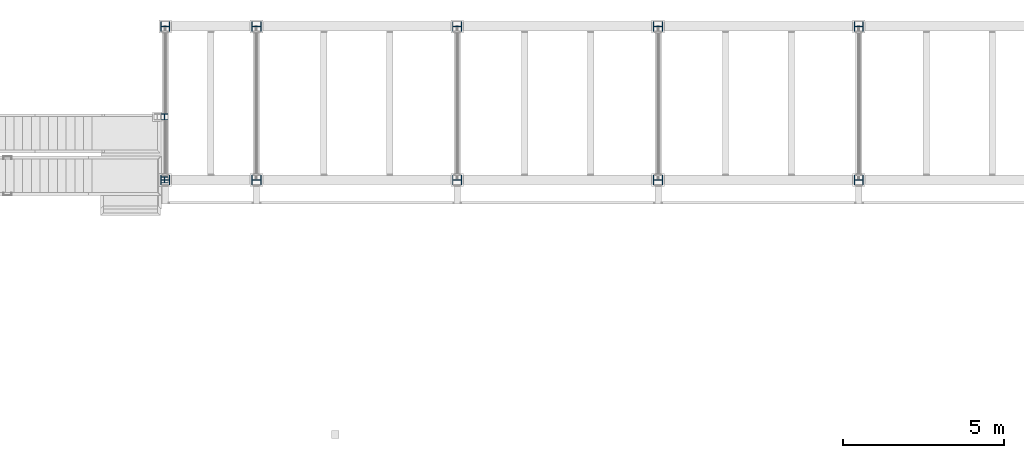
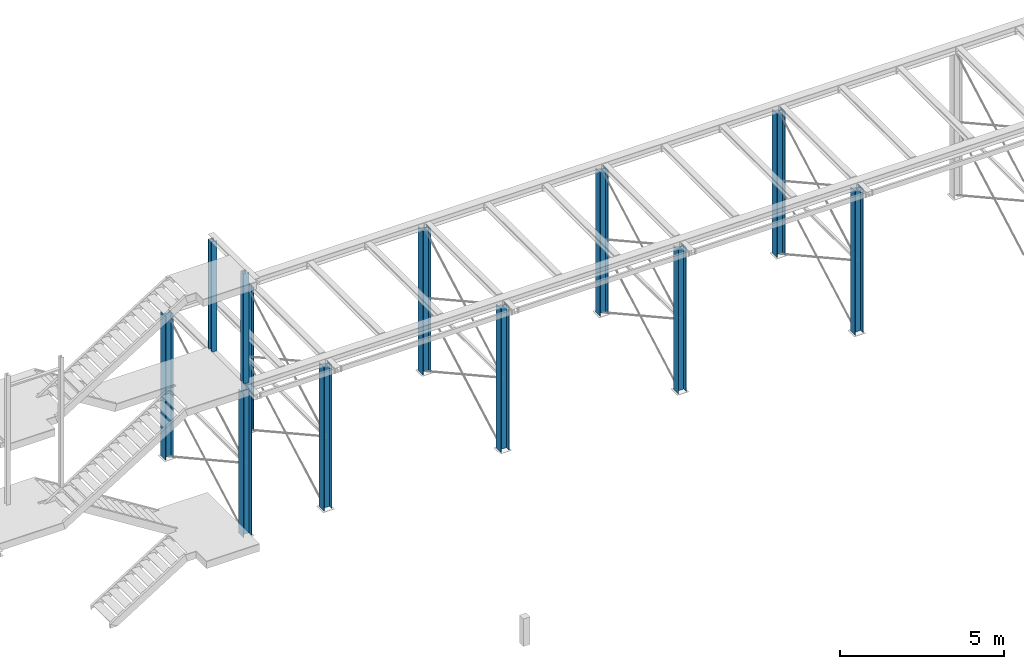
# One storey, part 3 of 24: 12 columns.
"""IFC2X3 building model written with IfcOpenShell, lengths in metres."""

from ifc_helpers import new_model, entity, si_unit, converted_unit, derived_unit, frame, origin, place, context, subcontext, project, spatial, polyline, outline, extrude, material, element, save


model = new_model("IFC2X3")

# Units and contexts
model_context = context("Model", 3, precision=1e-05, world=origin())
body_context = subcontext(model_context, "Body", "Model", "MODEL_VIEW")
ifc_project = project(units=[si_unit("LENGTHUNIT", "METRE"), si_unit("AREAUNIT", "SQUARE_METRE"), si_unit("VOLUMEUNIT", "CUBIC_METRE"), si_unit("MASSUNIT", "GRAM", prefix="KILO"), converted_unit("PLANEANGLEUNIT", "DEGREE", entity("IfcPlaneAngleMeasure", 0.0174532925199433), si_unit("PLANEANGLEUNIT", "RADIAN"), dimensions=[0, 0, 0, 0, 0, 0, 0]), derived_unit("THERMALTRANSMITTANCEUNIT", [(si_unit("POWERUNIT", "WATT"), 1), (si_unit("THERMODYNAMICTEMPERATUREUNIT", "KELVIN"), -1), (si_unit("LENGTHUNIT", "METRE"), -2)]), derived_unit("VOLUMETRICFLOWRATEUNIT", [(si_unit("LENGTHUNIT", "METRE"), 3), (converted_unit("TIMEUNIT", "hour", entity("IfcTimeMeasure", 3600.0), si_unit("TIMEUNIT", "SECOND"), dimensions=[0, 0, 1, 0, 0, 0, 0]), -1), (si_unit("LENGTHUNIT", "METRE"), -1)])], contexts=[model_context])

# Site, building, storey
site_placement = place(None, origin())
site = spatial("IfcSite", under=ifc_project, at=site_placement, Name="TWP_Speiseverteilzentrum SBW VZ II", CompositionType="ELEMENT")
building_placement = place(site_placement, origin())
building = spatial("IfcBuilding", under=site, at=building_placement, Name="Speiseverteilzentrum SBW VZ II", CompositionType="ELEMENT")
storey_placement = place(building_placement, frame((0.0, 0.0, 0.6957)))
storey = spatial("IfcBuildingStorey", under=building, at=storey_placement, Name="EG_Technik_FFB", CompositionType="ELEMENT", Elevation=0.6957)

# Columns
ifc_material_1 = material(Name="S235")
column_1_placement = place(storey_placement, frame((91.39175, 92.0999999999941, 0.665), z_axis=(0.0, 0.0, 1.0), x_axis=(1.22464679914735e-16, 1.0, 0.0)))
element("IfcColumn", 1, at=column_1_placement, inside=storey, material=ifc_material_1, Name="Rahmenstiel", context=body_context, shape_type="SweptSolid", body=[
    extrude(outline(polyline([(-0.15, 0.145), (-0.15, 0.131), (-0.00424999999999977, 0.131), (-0.00424999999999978, -0.131), (-0.15, -0.131), (-0.15, -0.145), (0.15, -0.145), (0.15, -0.131), (0.00425000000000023, -0.131), (0.00425000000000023, 0.131), (0.15, 0.131), (0.15, 0.145), (-0.15, 0.145)])), frame((0.15, 0.145, 0.0), z_axis=(0.0, 0.0, 1.0), x_axis=(1.0, 0.0, 0.0)), (0.0, 0.0, 1.0), 5.365),
])
ifc_material_2 = material(Name="S235")
column_2_placement = place(storey_placement, frame((91.39175, 87.3249999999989, 0.665), z_axis=(0.0, 0.0, 1.0), x_axis=(1.22464679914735e-16, 1.0, 0.0)))
element("IfcColumn", 2, at=column_2_placement, inside=storey, material=ifc_material_2, Name="Rahmenstiel", context=body_context, shape_type="SweptSolid", body=[
    extrude(outline(polyline([(-0.15, 0.145), (-0.15, 0.131), (-0.00424999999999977, 0.131), (-0.00424999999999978, -0.131), (-0.15, -0.131), (-0.15, -0.145), (0.15, -0.145), (0.15, -0.131), (0.00425000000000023, -0.131), (0.00425000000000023, 0.131), (0.15, 0.131), (0.15, 0.145), (-0.15, 0.145)])), frame((0.15, 0.145, 0.0), z_axis=(0.0, 0.0, 1.0), x_axis=(1.0, 0.0, 0.0)), (0.0, 0.0, 1.0), 5.365),
])
ifc_material_3 = material(Name="S235")
column_3_placement = place(storey_placement, frame((85.14825, 92.0999999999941, 0.665), z_axis=(0.0, 0.0, 1.0), x_axis=(1.22464679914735e-16, 1.0, 0.0)))
element("IfcColumn", 3, at=column_3_placement, inside=storey, material=ifc_material_3, Name="Rahmenstiel", context=body_context, shape_type="SweptSolid", body=[
    extrude(outline(polyline([(-0.15, 0.145), (-0.15, 0.131), (-0.00424999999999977, 0.131), (-0.00424999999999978, -0.131), (-0.15, -0.131), (-0.15, -0.145), (0.15, -0.145), (0.15, -0.131), (0.00425000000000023, -0.131), (0.00425000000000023, 0.131), (0.15, 0.131), (0.15, 0.145), (-0.15, 0.145)])), frame((0.15, 0.145, 0.0), z_axis=(0.0, 0.0, 1.0), x_axis=(1.0, 0.0, 0.0)), (0.0, 0.0, 1.0), 5.365),
])
ifc_material_4 = material(Name="S235")
column_4_placement = place(storey_placement, frame((85.14825, 87.3249999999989, 0.665), z_axis=(0.0, 0.0, 1.0), x_axis=(1.22464679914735e-16, 1.0, 0.0)))
element("IfcColumn", 4, at=column_4_placement, inside=storey, material=ifc_material_4, Name="Rahmenstiel", context=body_context, shape_type="SweptSolid", body=[
    extrude(outline(polyline([(-0.15, 0.145), (-0.15, 0.131), (-0.00424999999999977, 0.131), (-0.00424999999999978, -0.131), (-0.15, -0.131), (-0.15, -0.145), (0.15, -0.145), (0.15, -0.131), (0.00425000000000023, -0.131), (0.00425000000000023, 0.131), (0.15, 0.131), (0.15, 0.145), (-0.15, 0.145)])), frame((0.15, 0.145, 0.0), z_axis=(0.0, 0.0, 1.0), x_axis=(1.0, 0.0, 0.0)), (0.0, 0.0, 1.0), 5.365),
])
ifc_material_5 = material(Name="S235")
column_5_placement = place(storey_placement, frame((78.895, 92.0999999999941, 0.665), z_axis=(0.0, 0.0, 1.0), x_axis=(1.22464679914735e-16, 1.0, 0.0)))
element("IfcColumn", 5, at=column_5_placement, inside=storey, material=ifc_material_5, Name="Rahmenstiel", context=body_context, shape_type="SweptSolid", body=[
    extrude(outline(polyline([(-0.15, 0.145), (-0.15, 0.131), (-0.00424999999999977, 0.131), (-0.00424999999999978, -0.131), (-0.15, -0.131), (-0.15, -0.145), (0.15, -0.145), (0.15, -0.131), (0.00425000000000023, -0.131), (0.00425000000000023, 0.131), (0.15, 0.131), (0.15, 0.145), (-0.15, 0.145)])), frame((0.15, 0.145, 0.0), z_axis=(0.0, 0.0, 1.0), x_axis=(1.0, 0.0, 0.0)), (0.0, 0.0, 1.0), 5.365),
])
ifc_material_6 = material(Name="S235")
column_6_placement = place(storey_placement, frame((78.895, 87.3249999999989, 0.665), z_axis=(0.0, 0.0, 1.0), x_axis=(1.22464679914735e-16, 1.0, 0.0)))
element("IfcColumn", 6, at=column_6_placement, inside=storey, material=ifc_material_6, Name="Rahmenstiel", context=body_context, shape_type="SweptSolid", body=[
    extrude(outline(polyline([(-0.15, 0.145), (-0.15, 0.131), (-0.00424999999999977, 0.131), (-0.00424999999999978, -0.131), (-0.15, -0.131), (-0.15, -0.145), (0.15, -0.145), (0.15, -0.131), (0.00425000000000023, -0.131), (0.00425000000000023, 0.131), (0.15, 0.131), (0.15, 0.145), (-0.15, 0.145)])), frame((0.15, 0.145, 0.0), z_axis=(0.0, 0.0, 1.0), x_axis=(1.0, 0.0, 0.0)), (0.0, 0.0, 1.0), 5.365),
])
ifc_material_7 = material(Name="S235")
column_7_placement = place(storey_placement, frame((72.645, 92.0999999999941, 0.665), z_axis=(0.0, 0.0, 1.0), x_axis=(1.22464679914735e-16, 1.0, 0.0)))
element("IfcColumn", 7, at=column_7_placement, inside=storey, material=ifc_material_7, Name="Rahmenstiel", context=body_context, shape_type="SweptSolid", body=[
    extrude(outline(polyline([(-0.15, 0.145), (-0.15, 0.131), (-0.00424999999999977, 0.131), (-0.00424999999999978, -0.131), (-0.15, -0.131), (-0.15, -0.145), (0.15, -0.145), (0.15, -0.131), (0.00425000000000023, -0.131), (0.00425000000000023, 0.131), (0.15, 0.131), (0.15, 0.145), (-0.15, 0.145)])), frame((0.15, 0.145, 0.0), z_axis=(0.0, 0.0, 1.0), x_axis=(1.0, 0.0, 0.0)), (0.0, 0.0, 1.0), 5.365),
])
ifc_material_8 = material(Name="S235")
column_8_placement = place(storey_placement, frame((72.645, 87.3249999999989, 0.665), z_axis=(0.0, 0.0, 1.0), x_axis=(1.22464679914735e-16, 1.0, 0.0)))
element("IfcColumn", 8, at=column_8_placement, inside=storey, material=ifc_material_8, Name="Rahmenstiel", context=body_context, shape_type="SweptSolid", body=[
    extrude(outline(polyline([(-0.15, 0.145), (-0.15, 0.131), (-0.00424999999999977, 0.131), (-0.00424999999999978, -0.131), (-0.15, -0.131), (-0.15, -0.145), (0.15, -0.145), (0.15, -0.131), (0.00425000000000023, -0.131), (0.00425000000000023, 0.131), (0.15, 0.131), (0.15, 0.145), (-0.15, 0.145)])), frame((0.15, 0.145, 0.0), z_axis=(0.0, 0.0, 1.0), x_axis=(1.0, 0.0, 0.0)), (0.0, 0.0, 1.0), 5.365),
])
ifc_material_9 = material(Name="S235")
column_9_placement = place(storey_placement, frame((69.8087031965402, 92.0999999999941, 0.665), z_axis=(0.0, 0.0, 1.0), x_axis=(1.22464679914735e-16, 1.0, 0.0)))
element("IfcColumn", 9, at=column_9_placement, inside=storey, material=ifc_material_9, Name="Rahmenstiel", context=body_context, shape_type="SweptSolid", body=[
    extrude(outline(polyline([(-0.15, 0.145), (-0.15, 0.131), (-0.00424999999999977, 0.131), (-0.00424999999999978, -0.131), (-0.15, -0.131), (-0.15, -0.145), (0.15, -0.145), (0.15, -0.131), (0.00425000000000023, -0.131), (0.00425000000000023, 0.131), (0.15, 0.131), (0.15, 0.145), (-0.15, 0.145)])), frame((0.15, 0.145, 0.0), z_axis=(0.0, 0.0, 1.0), x_axis=(1.0, 0.0, 0.0)), (0.0, 0.0, 1.0), 5.365),
])
ifc_material_10 = material(Name="S235")
column_10_placement = place(storey_placement, frame((69.8087031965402, 87.3249999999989, 0.665), z_axis=(0.0, 0.0, 1.0), x_axis=(1.22464679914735e-16, 1.0, 0.0)))
element("IfcColumn", 10, at=column_10_placement, inside=storey, material=ifc_material_10, Name="Rahmenstiel", context=body_context, shape_type="SweptSolid", body=[
    extrude(outline(polyline([(-0.15, 0.145), (-0.15, 0.131), (-0.00424999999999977, 0.131), (-0.00424999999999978, -0.131), (-0.15, -0.131), (-0.15, -0.145), (0.15, -0.145), (0.15, -0.131), (0.00425000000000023, -0.131), (0.00425000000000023, 0.131), (0.15, 0.131), (0.15, 0.145), (-0.15, 0.145)])), frame((0.15, 0.145, 0.0), z_axis=(0.0, 0.0, 1.0), x_axis=(1.0, 0.0, 0.0)), (0.0, 0.0, 1.0), 5.365),
])
ifc_material_11 = material(Name="S235")
column_11_placement = place(storey_placement, frame((69.7437031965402, 89.5299999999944, 6.35), z_axis=(0.0, 0.0, 1.0), x_axis=(-1.0, 2.44929359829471e-16, 0.0)))
element("IfcColumn", 11, at=column_11_placement, inside=storey, material=ifc_material_11, Name="Rahmenstiel", context=body_context, shape_type="SweptSolid", body=[
    extrude(outline(polyline([(-0.1, 0.095), (-0.1, 0.085), (-0.00325000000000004, 0.085), (-0.00325000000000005, -0.085), (-0.1, -0.085), (-0.1, -0.095), (0.1, -0.095), (0.1, -0.085), (0.00324999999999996, -0.085), (0.00324999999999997, 0.085), (0.1, 0.085), (0.1, 0.095), (-0.1, 0.095)])), frame((0.1, 0.095, 0.0), z_axis=(0.0, 0.0, 1.0), x_axis=(1.0, 0.0, 0.0)), (0.0, 0.0, 1.0), 4.115),
])
ifc_material_12 = material(Name="S235")
column_12_placement = place(storey_placement, frame((69.7437031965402, 87.5699999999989, 6.35), z_axis=(0.0, 0.0, 1.0), x_axis=(-1.0, 2.44929359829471e-16, 0.0)))
element("IfcColumn", 12, at=column_12_placement, inside=storey, material=ifc_material_12, Name="Rahmenstiel", context=body_context, shape_type="SweptSolid", body=[
    extrude(outline(polyline([(-0.1, 0.095), (-0.1, 0.085), (-0.00325000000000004, 0.085), (-0.00325000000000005, -0.085), (-0.1, -0.085), (-0.1, -0.095), (0.1, -0.095), (0.1, -0.085), (0.00324999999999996, -0.085), (0.00324999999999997, 0.085), (0.1, 0.085), (0.1, 0.095), (-0.1, 0.095)])), frame((0.1, 0.095, 0.0), z_axis=(0.0, 0.0, 1.0), x_axis=(1.0, 0.0, 0.0)), (0.0, 0.0, 1.0), 4.115),
])

save(model, "model.ifc")
